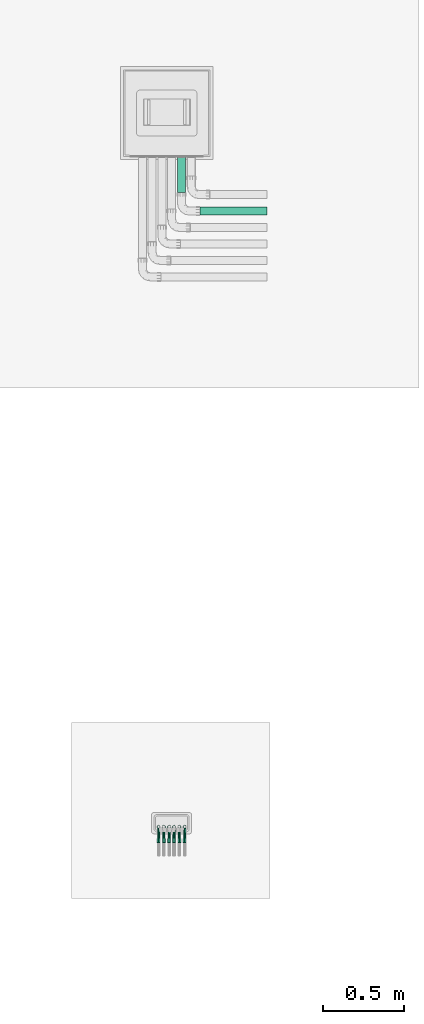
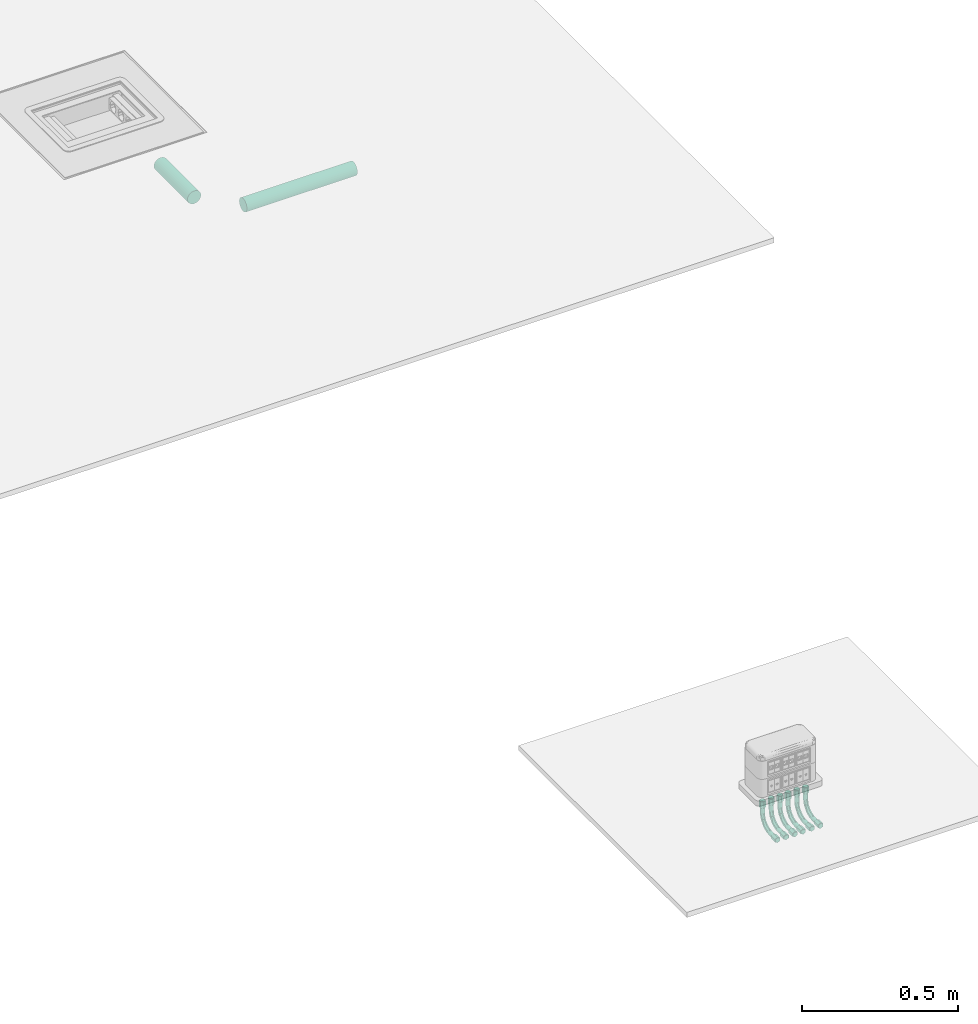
# One storey, part 5 of 87: 6 flow fittings, 2 flow segments.
"""IFC2X3 building model written with IfcOpenShell, lengths in millimetres."""

from ifc_helpers import new_model, entity, si_unit, converted_unit, derived_unit, direction, frame, frame_2d, origin, place, context, subcontext, project, spatial, circle, extrude, faceted_brep, source, transform, mapped, type_object, type_shapes, element, save


model = new_model("IFC2X3")

# Units and contexts
model_context = context("Model", 3, precision=0.01, world=origin(), true_north=direction((6.12303176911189e-17, 1.0)))
body_context = subcontext(model_context, "Body", "Model", "MODEL_VIEW")
ifc_project = project(units=[si_unit("LENGTHUNIT", "METRE", prefix="MILLI"), si_unit("AREAUNIT", "SQUARE_METRE"), si_unit("VOLUMEUNIT", "CUBIC_METRE"), converted_unit("PLANEANGLEUNIT", "DEGREE", entity("IfcRatioMeasure", 0.0174532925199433), si_unit("PLANEANGLEUNIT", "RADIAN"), dimensions=[0, 0, 0, 0, 0, 0, 0]), si_unit("MASSUNIT", "GRAM", prefix="KILO"), derived_unit("MASSDENSITYUNIT", [(si_unit("MASSUNIT", "GRAM", prefix="KILO"), 1), (si_unit("LENGTHUNIT", "METRE"), -3)]), si_unit("TIMEUNIT", "SECOND"), si_unit("FREQUENCYUNIT", "HERTZ"), si_unit("THERMODYNAMICTEMPERATUREUNIT", "DEGREE_CELSIUS"), derived_unit("THERMALTRANSMITTANCEUNIT", [(si_unit("MASSUNIT", "GRAM", prefix="KILO"), 1), (si_unit("THERMODYNAMICTEMPERATUREUNIT", "KELVIN"), -1), (si_unit("TIMEUNIT", "SECOND"), -3)]), derived_unit("VOLUMETRICFLOWRATEUNIT", [(si_unit("LENGTHUNIT", "METRE"), 3), (si_unit("TIMEUNIT", "SECOND"), -1)]), si_unit("ELECTRICCURRENTUNIT", "AMPERE"), si_unit("ELECTRICVOLTAGEUNIT", "VOLT"), si_unit("POWERUNIT", "WATT"), si_unit("FORCEUNIT", "NEWTON", prefix="KILO"), si_unit("ILLUMINANCEUNIT", "LUX"), si_unit("LUMINOUSFLUXUNIT", "LUMEN"), si_unit("LUMINOUSINTENSITYUNIT", "CANDELA"), derived_unit("USERDEFINED", [(si_unit("MASSUNIT", "GRAM", prefix="KILO"), -1), (si_unit("LENGTHUNIT", "METRE"), -2), (si_unit("TIMEUNIT", "SECOND"), 3), (si_unit("LUMINOUSFLUXUNIT", "LUMEN"), 1)]), derived_unit("LINEARVELOCITYUNIT", [(si_unit("LENGTHUNIT", "METRE"), 1), (si_unit("TIMEUNIT", "SECOND"), -1)]), si_unit("PRESSUREUNIT", "PASCAL"), derived_unit("USERDEFINED", [(si_unit("LENGTHUNIT", "METRE"), -2), (si_unit("MASSUNIT", "GRAM", prefix="KILO"), 1), (si_unit("TIMEUNIT", "SECOND"), -2)])], contexts=[model_context])

# Site, building, storey
site_placement = place(None, origin())
site = spatial("IfcSite", under=ifc_project, at=site_placement, Name="Default", CompositionType="ELEMENT")
building_placement = place(site_placement, origin())
building = spatial("IfcBuilding", under=site, at=building_placement, Name="Наименование здания", CompositionType="ELEMENT")
storey_placement = place(building_placement, origin())
storey = spatial("IfcBuildingStorey", under=building, at=storey_placement, Name="Этаж 01", CompositionType="ELEMENT", Elevation=0.0)

# Flow segments
cable_carrier_segment_type = type_object("IfcCableCarrierSegmentType", Name="Короб с соединительными деталями:ADSK_Труба водогазопроводная_Стальная", PredefinedType="CONDUITSEGMENT")
flow_segment_1_placement = place(storey_placement, origin())
element("IfcFlowSegment", 1, at=flow_segment_1_placement, inside=storey, type_object=cable_carrier_segment_type, Name="Короб с соединительными деталями:ADSK_Труба водогазопроводная_Стальная", ObjectType="Короб с соединительными деталями:ADSK_Труба водогазопроводная_Стальная", context=body_context, shape_type="SweptSolid", body=[
    extrude(circle(Radius=25.0, at=frame_2d((-1.94916083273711e-11, 1.02364783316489e-12), x_axis=(1.0, 0.0))), frame((-16725.2403415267, 6238.36678153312, -59.5000000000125), z_axis=(0.0, 1.0, 0.0), x_axis=(-1.0, 0.0, 0.0)), (0.0, 0.0, 1.0), 216.000000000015),
])
flow_segment_2_placement = place(storey_placement, origin())
element("IfcFlowSegment", 2, at=flow_segment_2_placement, inside=storey, type_object=cable_carrier_segment_type, Name="Короб с соединительными деталями:ADSK_Труба водогазопроводная_Стальная", ObjectType="Короб с соединительными деталями:ADSK_Труба водогазопроводная_Стальная", context=body_context, shape_type="SweptSolid", body=[
    extrude(circle(Radius=25.0, at=frame_2d((0.0, -3.38395977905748e-14), x_axis=(1.0, 0.0))), frame((-16610.2403415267, 6123.36678153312, -59.5000000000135), z_axis=(1.0, 0.0, 0.0), x_axis=(0.0, -1.0, 0.0)), (0.0, 0.0, 1.0), 410.000000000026),
])

# Flow fittings
cable_carrier_fitting_type = type_object("IfcCableCarrierFittingType", Name="Металл", PredefinedType="NOTDEFINED")
shared_shape = source(origin(), body_context, "Body", "Brep", [
    faceted_brep([(-98.0, 4.0, -6.92820323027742), (-98.0, 2.07055236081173, -7.72740661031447), (-98.0, 0.0, -8.0), (-98.0, -2.07055236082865, -7.72740661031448), (-98.0, -4.0, -6.92820323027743), (-98.0, -5.6568542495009, -5.65685424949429), (-98.0, -6.92820323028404, -4.0), (-98.0, -7.72740661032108, -2.07055236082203), (-98.0, -8.0, 0.0), (-98.0, -7.72740661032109, 2.07055236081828), (-98.0, -6.92820323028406, 4.0), (-98.0, -5.65685424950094, 5.65685424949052), (-98.0, -4.0, 6.92820323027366), (-98.0, -2.07055236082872, 7.72740661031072), (-98.0, 0.0, 8.0), (-98.0, 2.07055236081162, 7.72740661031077), (-98.0, 4.0, 6.92820323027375), (-98.0, 5.65685424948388, 5.65685424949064), (-98.0, 6.92820323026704, 4.0), (-98.0, 7.72740661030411, 2.07055236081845), (-98.0, 8.0, 0.0), (-98.0, 7.72740661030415, -2.07055236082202), (-98.0, 6.92820323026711, -4.0), (-98.0, 5.65685424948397, -5.65685424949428), (-98.0, -9.66987088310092, 0.0), (-98.0, -8.67689130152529, 0.0), (-98.0, -4.83493544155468, -8.37435383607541), (-98.0, -4.83493544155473, 8.37435383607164), (-98.0, -4.33844565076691, 7.51440829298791), (-98.0, 4.33844565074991, 7.51440829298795), (-98.0, 4.83493544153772, 8.37435383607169), (-98.0, 8.67689130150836, 0.0), (-98.0, 9.66987088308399, 0.0), (-98.0, 4.83493544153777, -8.37435383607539), (-98.0, 4.33844565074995, -7.51440829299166), (-98.0, -4.33844565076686, -7.51440829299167), (-50.0, -7.72740661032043, 2.07055236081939), (-72.1831816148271, -7.72740661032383, 2.07055236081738), (-72.1831816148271, -8.0, 0.0), (-50.0, -8.0, 0.0), (-50.0, -6.92820323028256, 4.0), (-72.1831816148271, -6.92820323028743, 4.0), (-72.1831816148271, -5.65685424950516, 5.65685424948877), (-50.0, -5.65685424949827, 5.65685424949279), (-50.0, -4.0, 6.92820323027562), (-72.1831816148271, -4.0, 6.92820323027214), (-50.0, -2.07055236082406, 7.72740661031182), (-72.1831816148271, -2.07055236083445, 7.72740661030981), (-50.0, 0.0, 8.0), (-72.1831816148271, 0.0, 8.0), (-50.0, 4.0, 6.92820323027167), (-72.1831816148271, 4.0, 6.92820323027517), (-72.1831816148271, 2.07055236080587, 7.72740661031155), (-50.0, 2.07055236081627, 7.72740661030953), (-50.0, 5.65685424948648, 5.65685424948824), (-72.1831816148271, 5.65685424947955, 5.6568542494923), (-72.1831816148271, 6.92820323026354, 4.0), (-50.0, 6.92820323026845, 4.0), (-50.0, 7.72740661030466, 2.07055236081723), (-72.1831816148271, 7.72740661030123, 2.07055236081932), (-50.0, 8.0, 0.0), (-72.1831816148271, 8.0, 0.0), (-50.0, 7.7274066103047, -2.07055236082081), (-72.1831816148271, 7.7274066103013, -2.07055236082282), (-50.0, 6.92820323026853, -4.0), (-72.1831816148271, 6.92820323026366, -4.0), (-72.1831816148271, 5.65685424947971, -5.65685424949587), (-50.0, 5.65685424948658, -5.65685424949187), (-50.0, 4.0, -6.92820323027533), (-72.1831816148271, 4.0, -6.92820323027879), (-50.0, 2.07055236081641, -7.72740661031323), (-72.1831816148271, 2.07055236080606, -7.72740661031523), (-50.0, 0.0, -8.0), (-72.1831816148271, 0.0, -8.0), (-50.0, -4.0, -6.92820323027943), (-72.1831816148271, -4.0, -6.92820323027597), (-72.1831816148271, -2.07055236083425, -7.7274066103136), (-50.0, -2.07055236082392, -7.7274066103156), (-50.0, -5.65685424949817, -5.65685424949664), (-72.1831816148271, -5.65685424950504, -5.65685424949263), (-72.1831816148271, -6.92820323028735, -4.0), (-50.0, -6.92820323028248, -4.0), (-50.0, -7.72740661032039, -2.07055236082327), (-72.1831816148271, -7.72740661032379, -2.07055236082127), (-22.8926995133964, 15.422576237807, 5.218457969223), (-32.2949166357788, 8.26489039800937, 6.49927427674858), (-18.8611103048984, 10.8231613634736, 7.9998760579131), (-34.8420539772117, -0.146784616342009, 7.63539410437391), (-34.4080742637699, -4.89857313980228, 0.0), (-27.8043609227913, -3.58501288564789, 0.0), (-42.2040371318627, -6.44928656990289, 0.0), (-8.98780669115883, 8.98780669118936, 0.0), (-7.6796942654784, 15.9321174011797, 6.72760451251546), (-42.3605626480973, 10.0469810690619, 0.0), (-40.8017274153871, 5.73389968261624, 6.40874210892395), (-2.70139690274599, 18.3960838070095, 0.0), (-14.1445446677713, 21.4811910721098, 6.81752458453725), (-13.6269330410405, 29.0, 0.0), (-21.3134665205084, 21.3134665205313, 0.0), (-1.12338738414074, 24.1026169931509, 5.9804123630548), (-8.26489046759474, 32.2949166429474, 6.49927422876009), (-18.396083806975, 2.70139690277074, 0.0), (-23.4113720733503, 2.35052749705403, 6.56912478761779), (-10.046981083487, 42.3605625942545, 0.0), (0.146784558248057, 34.842054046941, 7.63539412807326), (-5.73389972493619, 40.801727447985, 6.40874207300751), (-29.0, 13.6269330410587, 0.0), (-39.4999999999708, 10.8134665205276, 0.0), (-7.72740661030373, 50.0, 2.07055236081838), (-8.0, 50.0, 0.0), (6.44928656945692, 42.2040371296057, 0.0), (6.92820323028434, 50.0, 4.0), (5.65685424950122, 50.0, 5.65685424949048), (2.070552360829, 50.0, 7.72740661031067), (0.0, 50.0, 8.0), (4.0, 50.0, 6.92820323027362), (-2.07055236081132, 50.0, 7.72740661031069), (-5.65685424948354, 50.0, 5.65685424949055), (-6.92820323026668, 50.0, 4.0), (8.0, 50.0, 0.0), (7.72740661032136, 50.0, 2.07055236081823), (4.89857313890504, 34.4080742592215, 0.0), (3.58501288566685, 27.8043609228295, 0.0), (-4.0, 50.0, 6.92820323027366), (-37.6466357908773, -2.25464273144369, -7.09555892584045), (-7.06730634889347, 15.3437186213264, -6.10081914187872), (-40.5861552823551, 3.89431100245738, -7.43897587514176), (-31.0995918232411, 4.5305814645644, -7.96393035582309), (-5.65685424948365, 50.0, -5.65685424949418), (-5.99310462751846, 39.439222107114, -6.44187460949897), (-6.92820323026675, 50.0, -4.0), (-23.3943510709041, 1.46051748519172, -5.94530220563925), (-8.59338536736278, 26.9700345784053, -7.55889224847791), (-15.6855752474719, 15.2664937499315, -7.91326417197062), (0.146784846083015, 34.8420540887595, -7.63539404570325), (-14.7453038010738, 7.43838351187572, -6.02196761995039), (-22.3756950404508, 8.61559282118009, -7.99631235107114), (-1.03946325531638, 24.1536105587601, -5.93529656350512), (-4.0, 50.0, -6.92820323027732), (-2.07055236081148, 50.0, -7.72740661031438), (4.0, 50.0, -6.92820323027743), (7.72740661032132, 50.0, -2.07055236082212), (0.0, 50.0, -8.0), (2.07055236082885, 50.0, -7.72740661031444), (-7.72740661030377, 50.0, -2.07055236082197), (5.65685424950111, 50.0, -5.65685424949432), (6.92820323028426, 50.0, -4.0), (-2.0705523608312, 98.0, -7.72740661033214), (-4.0, 98.0, -6.92820323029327), (-5.65685424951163, 98.0, -5.65685424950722), (-6.92820323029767, 98.0, -4.0), (-7.72740661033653, 98.0, -2.07055236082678), (-8.0, 98.0, 0.0), (-7.72740661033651, 98.0, 2.07055236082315), (-6.92820323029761, 98.0, 4.0), (-5.65685424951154, 98.0, 5.65685424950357), (-4.0, 98.0, 6.9282032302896), (-2.07055236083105, 98.0, 7.72740661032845), (0.0, 98.0, 8.0), (2.07055236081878, 98.0, 7.72740661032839), (4.0, 98.0, 6.92820323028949), (5.6568542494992, 98.0, 5.65685424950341), (6.92820323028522, 98.0, 4.0), (7.72740661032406, 98.0, 2.07055236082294), (8.0, 98.0, 0.0), (7.72740661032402, 98.0, -2.07055236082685), (6.92820323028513, 98.0, -4.0), (5.65685424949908, 98.0, -5.65685424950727), (4.0, 98.0, -6.9282032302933), (2.07055236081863, 98.0, -7.72740661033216), (0.0, 98.0, -8.0), (-9.6698708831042, 98.0, 0.0), (-8.67689130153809, 98.0, 0.0), (-4.83493544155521, 98.0, -8.37435383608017), (-4.83493544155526, 98.0, 8.3743538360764), (-4.3384456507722, 98.0, 7.51440829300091), (4.33844565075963, 98.0, 7.51440829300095), (4.83493544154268, 98.0, 8.37435383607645), (8.67689130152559, 98.0, 0.0), (9.6698708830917, 98.0, 0.0), (4.83493544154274, 98.0, -8.37435383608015), (4.33844565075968, 98.0, -7.51440829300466), (-4.33844565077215, 98.0, -7.51440829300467), (7.72740661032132, 72.1831816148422, 2.07055236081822), (8.0, 72.1831816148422, 0.0), (6.92820323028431, 72.1831816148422, 4.0), (5.6568542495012, 72.1831816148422, 5.65685424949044), (4.0, 72.1831816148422, 6.92820323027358), (2.07055236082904, 72.1831816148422, 7.72740661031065), (0.0, 72.1831816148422, 8.0), (-4.0, 72.1831816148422, 6.92820323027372), (-2.07055236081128, 72.1831816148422, 7.72740661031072), (-5.65685424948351, 72.1831816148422, 5.65685424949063), (-6.92820323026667, 72.1831816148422, 4.0), (-7.72740661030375, 72.1831816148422, 2.07055236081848), (-8.0, 72.1831816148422, 0.0), (-7.72740661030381, 72.1831816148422, -2.07055236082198), (-6.92820323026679, 72.1831816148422, -4.0), (-5.65685424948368, 72.1831816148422, -5.65685424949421), (-4.0, 72.1831816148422, -6.92820323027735), (-2.07055236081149, 72.1831816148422, -7.7274066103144), (0.0, 72.1831816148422, -8.0), (4.0, 72.1831816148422, -6.92820323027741), (2.07055236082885, 72.1831816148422, -7.72740661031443), (5.65685424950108, 72.1831816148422, -5.6568542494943), (6.92820323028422, 72.1831816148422, -4.0), (7.72740661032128, 72.1831816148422, -2.0705523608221), (-96.1402564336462, 8.67689130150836, 0.0), (-96.1402564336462, 4.33844565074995, -7.51440829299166), (-96.1402564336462, -8.67689130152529, 0.0), (-96.1402564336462, -4.33844565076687, -7.51440829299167), (-96.1402564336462, -4.33844565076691, 7.51440829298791), (-96.1402564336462, 4.33844565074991, 7.51440829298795), (-72.1831816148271, -11.0, 0.0), (-72.1831816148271, -5.50000000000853, 9.52627944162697), (-72.1831816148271, 5.4999999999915, 9.52627944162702), (-72.1831816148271, 11.0, 0.0), (-72.1831816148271, 5.49999999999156, -9.52627944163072), (-72.1831816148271, -5.50000000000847, -9.52627944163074), (-96.6698708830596, 5.49999999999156, -9.52627944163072), (-96.6698708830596, 11.0, 0.0), (-96.6698708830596, -5.50000000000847, -9.52627944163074), (5.50000000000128, 72.1831816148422, -9.52627944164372), (-5.50000000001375, 72.1831816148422, -9.52627944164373), (-5.50000000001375, 96.6698708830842, -9.52627944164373), (5.50000000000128, 96.6698708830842, -9.52627944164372), (-96.6698708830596, -11.0, 0.0), (-96.6698708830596, -5.50000000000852, 9.52627944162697), (-96.6698708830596, 5.4999999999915, 9.52627944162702), (-5.50000000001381, 72.1831816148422, 9.52627944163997), (5.50000000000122, 72.1831816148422, 9.52627944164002), (5.50000000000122, 96.6698708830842, 9.52627944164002), (-5.50000000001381, 96.6698708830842, 9.52627944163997), (-11.0, 96.6698708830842, 0.0), (-4.33844565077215, 96.1402564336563, -7.51440829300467), (4.33844565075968, 96.1402564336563, -7.51440829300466), (4.33844565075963, 96.1402564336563, 7.51440829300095), (-4.3384456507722, 96.1402564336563, 7.51440829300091), (11.0, 72.1831816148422, 0.0), (11.0, 96.6698708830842, 0.0), (-11.0, 72.1831816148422, 0.0), (8.67689130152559, 96.1402564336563, 0.0), (-8.67689130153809, 96.1402564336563, 0.0)], [[[0, 1, 2, 3, 4, 5, 6, 7, 8, 9, 10, 11, 12, 13, 14, 15, 16, 17, 18, 19, 20, 21, 22, 23]], [[0, 1, 2]], [[0, 2, 5]], [[21, 0, 5]], [[0, 21, 22]], [[23, 0, 22]], [[5, 2, 3]], [[4, 5, 3]], [[18, 21, 5]], [[9, 18, 5]], [[8, 9, 5]], [[5, 6, 8]], [[7, 8, 6]], [[9, 12, 18]], [[9, 10, 12]], [[11, 12, 10]], [[12, 13, 18]], [[13, 17, 18]], [[17, 13, 15]], [[13, 14, 15]], [[15, 16, 17]], [[20, 21, 18]], [[18, 19, 20]], [[24, 25, 26]], [[25, 24, 27]], [[27, 28, 25]], [[28, 27, 29]], [[30, 29, 27]], [[29, 30, 31]], [[32, 31, 30]], [[31, 32, 33]], [[34, 33, 26]], [[33, 34, 31]], [[35, 26, 25]], [[26, 35, 34]], [[36, 37, 38, 39]], [[40, 41, 37, 36]], [[42, 43, 44, 45]], [[40, 43, 42, 41]], [[45, 44, 46, 47]], [[48, 49, 47, 46]], [[50, 51, 52, 53]], [[54, 55, 51, 50]], [[56, 57, 58, 59]], [[54, 57, 56, 55]], [[59, 58, 60, 61]], [[52, 49, 48, 53]], [[62, 63, 61, 60]], [[64, 65, 63, 62]], [[66, 67, 68, 69]], [[64, 67, 66, 65]], [[69, 68, 70, 71]], [[72, 73, 71, 70]], [[74, 75, 76, 77]], [[78, 79, 75, 74]], [[80, 81, 82, 83]], [[78, 81, 80, 79]], [[83, 82, 39, 38]], [[76, 73, 72, 77]], [[84, 85, 86]], [[87, 88, 89]], [[90, 40, 36]], [[86, 91, 92]], [[44, 43, 90]], [[40, 90, 43]], [[93, 58, 94]], [[88, 87, 44]], [[44, 87, 46]], [[95, 92, 91]], [[96, 97, 98]], [[96, 99, 100]], [[44, 90, 88]], [[48, 46, 87]], [[89, 101, 91, 102]], [[94, 50, 53]], [[53, 48, 87]], [[100, 103, 97]], [[100, 104, 105]], [[85, 93, 94]], [[50, 94, 54]], [[58, 57, 94]], [[96, 98, 84]], [[85, 106, 107, 93]], [[53, 87, 94]], [[36, 39, 90]], [[91, 86, 102]], [[85, 84, 106]], [[108, 109, 103]], [[98, 106, 84]], [[110, 111, 112]], [[104, 113, 114]], [[113, 104, 115]], [[104, 114, 116]], [[105, 117, 118]], [[119, 120, 110]], [[94, 57, 54]], [[121, 110, 115]], [[58, 93, 60]], [[110, 112, 115]], [[102, 85, 87]], [[105, 104, 116]], [[86, 92, 96]], [[97, 96, 100]], [[92, 95, 99]], [[104, 122, 121]], [[92, 99, 96]], [[103, 105, 108]], [[111, 110, 120]], [[123, 105, 116]], [[121, 115, 104]], [[100, 105, 103]], [[108, 105, 118]], [[105, 123, 117]], [[87, 85, 94]], [[122, 99, 95]], [[104, 99, 122]], [[100, 99, 104]], [[96, 84, 86]], [[85, 102, 86]], [[89, 102, 87]], [[88, 90, 124, 89]], [[95, 91, 125]], [[126, 64, 62]], [[124, 70, 126]], [[107, 127, 126]], [[128, 129, 130]], [[62, 60, 93, 107]], [[90, 81, 78]], [[106, 127, 107]], [[81, 90, 82]], [[124, 127, 131]], [[68, 67, 126]], [[124, 78, 74]], [[97, 132, 133]], [[90, 39, 82]], [[132, 129, 134]], [[78, 124, 90]], [[135, 91, 101]], [[77, 72, 124]], [[133, 136, 106]], [[74, 77, 124]], [[124, 72, 70]], [[70, 68, 126]], [[122, 95, 137]], [[64, 126, 67]], [[132, 137, 125]], [[131, 127, 136]], [[89, 131, 101]], [[138, 129, 128]], [[136, 133, 135]], [[129, 138, 139]], [[140, 110, 121]], [[141, 119, 110]], [[139, 134, 129]], [[129, 132, 97]], [[98, 97, 133, 106]], [[142, 143, 134]], [[139, 142, 134]], [[103, 144, 129]], [[144, 103, 109]], [[122, 134, 121]], [[121, 134, 140]], [[124, 126, 127]], [[129, 97, 103]], [[135, 125, 91]], [[110, 140, 145]], [[140, 134, 143]], [[146, 141, 110]], [[137, 95, 125]], [[129, 144, 130]], [[122, 137, 134]], [[124, 131, 89]], [[145, 146, 110]], [[134, 137, 132]], [[132, 125, 133]], [[106, 136, 127]], [[135, 133, 125]], [[135, 131, 136]], [[131, 135, 101]], [[62, 107, 126]], [[147, 148, 149, 150, 151, 152, 153, 154, 155, 156, 157, 158, 159, 160, 161, 162, 163, 164, 165, 166, 167, 168, 169, 170]], [[147, 169, 170]], [[147, 149, 169]], [[149, 147, 148]], [[151, 169, 149]], [[149, 150, 151]], [[169, 151, 165]], [[165, 151, 155]], [[155, 151, 152]], [[152, 154, 155]], [[152, 153, 154]], [[165, 155, 164]], [[155, 157, 164]], [[155, 156, 157]], [[164, 157, 158]], [[158, 162, 164]], [[162, 158, 161]], [[159, 161, 158]], [[161, 159, 160]], [[163, 164, 162]], [[167, 169, 165]], [[167, 165, 166]], [[169, 167, 168]], [[171, 172, 173]], [[172, 171, 174]], [[174, 175, 172]], [[175, 174, 176]], [[177, 176, 174]], [[176, 177, 178]], [[179, 178, 177]], [[178, 179, 180]], [[181, 180, 173]], [[180, 181, 178]], [[182, 173, 172]], [[173, 182, 181]], [[183, 120, 119, 184]], [[185, 111, 120, 183]], [[112, 186, 187, 115]], [[185, 186, 112, 111]], [[115, 187, 188, 113]], [[113, 188, 189, 114]], [[190, 123, 116, 191]], [[192, 117, 123, 190]], [[118, 193, 194, 108]], [[192, 193, 118, 117]], [[108, 194, 195, 109]], [[116, 114, 189, 191]], [[196, 144, 109, 195]], [[197, 130, 144, 196]], [[128, 198, 199, 138]], [[197, 198, 128, 130]], [[138, 199, 200, 139]], [[139, 200, 201, 142]], [[202, 140, 143, 203]], [[204, 145, 140, 202]], [[146, 205, 206, 141]], [[204, 205, 146, 145]], [[141, 206, 184, 119]], [[143, 142, 201, 203]], [[22, 207, 208]], [[1, 0, 208]], [[208, 2, 1]], [[23, 208, 0]], [[20, 207, 21]], [[22, 21, 207]], [[23, 22, 208]], [[6, 209, 7]], [[209, 6, 210]], [[209, 8, 7]], [[2, 210, 3]], [[210, 5, 4]], [[4, 3, 210]], [[5, 210, 6]], [[210, 2, 208]], [[10, 209, 211]], [[13, 12, 211]], [[211, 14, 13]], [[11, 211, 12]], [[8, 209, 9]], [[10, 9, 209]], [[11, 10, 211]], [[18, 207, 19]], [[207, 18, 212]], [[207, 20, 19]], [[14, 212, 15]], [[212, 17, 16]], [[16, 15, 212]], [[17, 212, 18]], [[212, 14, 211]], [[83, 38, 213]], [[213, 80, 83]], [[37, 213, 38]], [[213, 37, 41]], [[41, 214, 213]], [[41, 42, 214]], [[45, 214, 42]], [[214, 45, 47]], [[47, 49, 214]], [[215, 214, 49]], [[215, 49, 52]], [[52, 51, 215]], [[55, 215, 51]], [[56, 215, 55]], [[56, 216, 215]], [[56, 59, 216]], [[61, 216, 59]], [[63, 216, 61]], [[216, 63, 65]], [[217, 216, 65]], [[65, 66, 217]], [[217, 66, 69]], [[71, 217, 69]], [[217, 71, 73]], [[218, 217, 73]], [[73, 76, 218]], [[218, 76, 75]], [[75, 79, 218]], [[80, 218, 79]], [[218, 80, 213]], [[216, 217, 219, 220]], [[217, 218, 221, 219]], [[222, 223, 224, 225]], [[218, 213, 226, 221]], [[213, 214, 227, 226]], [[214, 215, 228, 227]], [[229, 230, 231, 232]], [[215, 216, 220, 228]], [[220, 219, 33, 32]], [[224, 233, 171, 173]], [[219, 221, 26, 33]], [[221, 226, 24, 26]], [[226, 227, 27, 24]], [[227, 228, 30, 27]], [[228, 220, 32, 30]], [[233, 232, 174, 171]], [[31, 34, 208, 207]], [[34, 35, 210, 208]], [[181, 182, 234, 235]], [[35, 25, 209, 210]], [[25, 28, 211, 209]], [[28, 29, 212, 211]], [[175, 176, 236, 237]], [[29, 31, 207, 212]], [[238, 222, 225, 239]], [[223, 240, 233, 224]], [[240, 229, 232, 233]], [[230, 238, 239, 231]], [[239, 225, 180, 179]], [[225, 224, 173, 180]], [[232, 231, 177, 174]], [[231, 239, 179, 177]], [[178, 181, 235, 241]], [[182, 172, 242, 234]], [[172, 175, 237, 242]], [[176, 178, 241, 236]], [[167, 235, 168]], [[235, 166, 241]], [[235, 169, 168]], [[169, 235, 170]], [[164, 241, 165]], [[166, 165, 241]], [[167, 166, 235]], [[150, 242, 151]], [[242, 150, 234]], [[242, 152, 151]], [[170, 234, 147]], [[234, 149, 148]], [[148, 147, 234]], [[149, 234, 150]], [[234, 170, 235]], [[155, 237, 156]], [[237, 154, 242]], [[237, 157, 156]], [[157, 237, 158]], [[152, 242, 153]], [[154, 153, 242]], [[155, 154, 237]], [[162, 241, 163]], [[241, 162, 236]], [[241, 164, 163]], [[158, 236, 159]], [[236, 161, 160]], [[160, 159, 236]], [[161, 236, 162]], [[236, 158, 237]], [[196, 195, 240]], [[240, 197, 196]], [[194, 240, 195]], [[240, 194, 193]], [[193, 229, 240]], [[193, 192, 229]], [[190, 229, 192]], [[229, 190, 191]], [[191, 189, 229]], [[230, 229, 189]], [[230, 189, 188]], [[188, 187, 230]], [[186, 230, 187]], [[185, 230, 186]], [[185, 238, 230]], [[185, 183, 238]], [[184, 238, 183]], [[206, 238, 184]], [[238, 206, 205]], [[222, 238, 205]], [[205, 204, 222]], [[222, 204, 202]], [[203, 222, 202]], [[222, 203, 201]], [[223, 222, 201]], [[201, 200, 223]], [[223, 200, 199]], [[199, 198, 223]], [[197, 223, 198]], [[223, 197, 240]]]),
])
type_shapes(cable_carrier_fitting_type, [shared_shape])
for number, where, z_axis, x_axis in (
    (3, (-16865.7397600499, 2343.8244085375, -111.0), (-1.0, 0.0, 0.0), (0.0, 0.0, -1.0)),
    (4, (-16833.2397600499, 2343.8244085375, -111.0), (-1.0, 0.0, 0.0), (0.0, 0.0, -1.0)),
    (5, (-16800.7397600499, 2343.8244085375, -111.0), (-1.0, 0.0, 0.0), (0.0, 0.0, -1.0)),
    (6, (-16770.7397600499, 2343.8244085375, -111.0), (-1.0, 0.0, 0.0), (0.0, 0.0, -1.0)),
    (7, (-16738.2397600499, 2343.8244085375, -111.0), (-1.0, 0.0, 0.0), (0.0, 0.0, -1.0)),
    (8, (-16705.7397600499, 2343.8244085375, -111.0), (-1.0, 0.0, 0.0), (0.0, 0.0, -1.0)),
):
    element("IfcFlowFitting", number, at=place(storey_placement, frame(where, z_axis=z_axis, x_axis=x_axis)), inside=storey, type_object=cable_carrier_fitting_type, Name="ADSK_Поворот:Металл", ObjectType="Металл", context=body_context, shape_type="MappedRepresentation", body=[
        mapped(shared_shape, transform((0.0, 0.0, 0.0), scale=1.0)),
    ])

save(model, "model.ifc")
